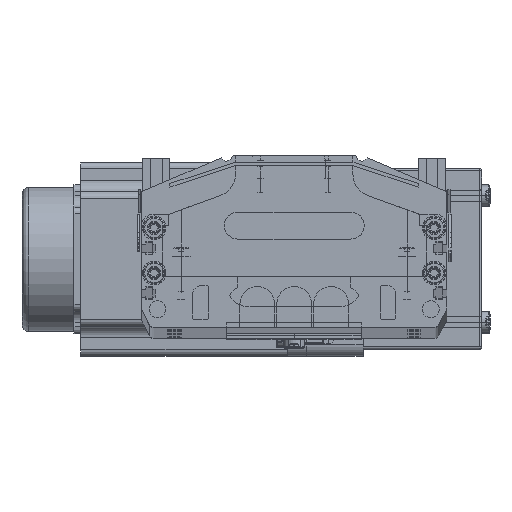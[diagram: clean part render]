
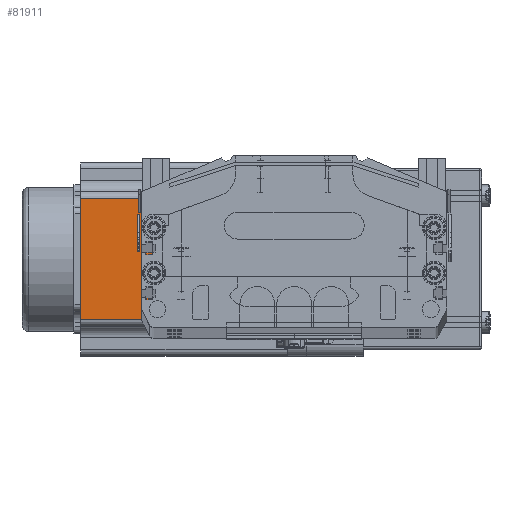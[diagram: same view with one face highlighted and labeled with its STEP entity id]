
A CAD part, top view. The second image highlights one B-rep face of the part: STEP entity #81911.
In plain terms, the highlighted planar face has unit normal (0, 0, 1) as drawn and (-1, 0, 0) by its records, which use the part's own axes.
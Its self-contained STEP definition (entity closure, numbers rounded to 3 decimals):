
#15942 = DIRECTION ( 'NONE',  ( 0., 0., 1. ) ) ;
#15984 = CARTESIAN_POINT ( 'NONE',  ( 0., 16.16, 91.5 ) ) ;
#15991 = VECTOR ( 'NONE', #15942, 1000. ) ;
#16227 = CARTESIAN_POINT ( 'NONE',  ( 0., 69.74, 0. ) ) ;
#16330 = LINE ( 'NONE', #15984, #15991 ) ;
#16669 = CARTESIAN_POINT ( 'NONE',  ( 0., 69.74, 91.5 ) ) ;
#17120 = LINE ( 'NONE', #17215, #17212 ) ;
#17212 = VECTOR ( 'NONE', #17214, 1000. ) ;
#17214 = DIRECTION ( 'NONE',  ( 0., -1., 0. ) ) ;
#17215 = CARTESIAN_POINT ( 'NONE',  ( 0., 0., 91.5 ) ) ;
#27813 = CARTESIAN_POINT ( 'NONE',  ( 0., 16.16, 91.5 ) ) ;
#27935 = FACE_OUTER_BOUND ( 'NONE', #81985, .T. ) ;
#27964 = CARTESIAN_POINT ( 'NONE',  ( 0., 0., 91.5 ) ) ;
#27996 = DIRECTION ( 'NONE',  ( 0., 0., -1. ) ) ;
#28024 = DIRECTION ( 'NONE',  ( 1., 0., 0. ) ) ;
#28040 = AXIS2_PLACEMENT_3D ( 'NONE', #27964, #28024, #27996 ) ;
#28045 = PLANE ( 'NONE',  #28040 ) ;
#28096 = CARTESIAN_POINT ( 'NONE',  ( 0., 69.74, 91.5 ) ) ;
#28117 = LINE ( 'NONE', #28096, #28281 ) ;
#28221 = CARTESIAN_POINT ( 'NONE',  ( 0., 0., 0. ) ) ;
#28235 = VECTOR ( 'NONE', #28240, 1000. ) ;
#28240 = DIRECTION ( 'NONE',  ( 0., -1., 0. ) ) ;
#28242 = LINE ( 'NONE', #28221, #28235 ) ;
#28280 = DIRECTION ( 'NONE',  ( 0., 0., -1. ) ) ;
#28281 = VECTOR ( 'NONE', #28280, 1000. ) ;
#28315 = CARTESIAN_POINT ( 'NONE',  ( 0., 16.16, 0. ) ) ;
#81891 = VERTEX_POINT ( 'NONE', #27813 ) ;
#81909 = ORIENTED_EDGE ( 'NONE', *, *, #81956, .T. ) ;
#81911 = ADVANCED_FACE ( 'NONE', ( #27935 ), #28045, .F. ) ;
#81956 = EDGE_CURVE ( 'NONE', #82027, #81984, #28242, .T. ) ;
#81984 = VERTEX_POINT ( 'NONE', #28315 ) ;
#81985 = EDGE_LOOP ( 'NONE', ( #81909, #82160, #82003, #82065 ) ) ;
#82003 = ORIENTED_EDGE ( 'NONE', *, *, #82161, .F. ) ;
#82004 = EDGE_CURVE ( 'NONE', #82073, #82027, #28117, .T. ) ;
#82027 = VERTEX_POINT ( 'NONE', #16227 ) ;
#82031 = EDGE_CURVE ( 'NONE', #81984, #81891, #16330, .T. ) ;
#82065 = ORIENTED_EDGE ( 'NONE', *, *, #82004, .T. ) ;
#82073 = VERTEX_POINT ( 'NONE', #16669 ) ;
#82160 = ORIENTED_EDGE ( 'NONE', *, *, #82031, .T. ) ;
#82161 = EDGE_CURVE ( 'NONE', #82073, #81891, #17120, .T. ) ;
